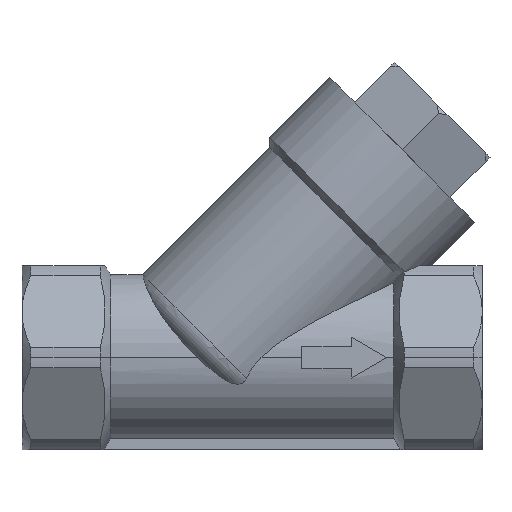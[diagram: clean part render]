
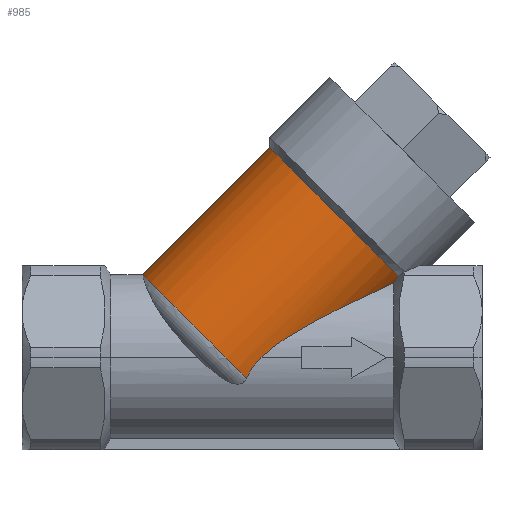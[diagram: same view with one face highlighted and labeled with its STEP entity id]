
A CAD part, top view. The second image highlights one B-rep face of the part: STEP entity #985.
In plain terms, the highlighted cylindrical face has radius 13.5 mm (diameter 27 mm), a partial arc.
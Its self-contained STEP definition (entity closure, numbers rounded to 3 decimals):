
#27 = AXIS2_PLACEMENT_3D ( 'NONE', #2010, #352, #2296 ) ;
#45 = EDGE_CURVE ( 'NONE', #2713, #2536, #534, .T. ) ;
#85 = DIRECTION ( 'NONE',  ( -0.707, 0.707, 0. ) ) ;
#107 = CARTESIAN_POINT ( 'NONE',  ( 0.813, -0.43, 11.75 ) ) ;
#220 = CARTESIAN_POINT ( 'NONE',  ( 5.422, 3.17, 11.317 ) ) ;
#308 = CARTESIAN_POINT ( 'NONE',  ( 20.212, 10.858, 5.38 ) ) ;
#352 = DIRECTION ( 'NONE',  ( 0.707, 0.707, 0. ) ) ;
#392 = B_SPLINE_CURVE_WITH_KNOTS ( 'NONE', 3,
 ( #3210, #1573, #489, #2427, #770, #2690, #1037, #2963, #1315, #3232, #1593, #3505, #1873, #220, #2161, #498, #2443, #785, #2700, #1049 ),
 .UNSPECIFIED., .F., .F.,
 ( 4, 2, 2, 2, 2, 2, 2, 2, 2, 4 ),
 ( 0., 0.003, 0.006, 0.009, 0.011, 0.014, 0.017, 0.019, 0.02, 0.023 ),
 .UNSPECIFIED. ) ;
#411 = CARTESIAN_POINT ( 'NONE',  ( 0.416, -0.885, 11.727 ) ) ;
#412 = ORIENTED_EDGE ( 'NONE', *, *, #1535, .F. ) ;
#432 = B_SPLINE_CURVE_WITH_KNOTS ( 'NONE', 3,
 ( #1497, #107, #411, #2351, #688, #2616 ),
 .UNSPECIFIED., .F., .F.,
 ( 4, 2, 4 ),
 ( 0.023, 0.025, 0.027 ),
 .UNSPECIFIED. ) ;
#489 = CARTESIAN_POINT ( 'NONE',  ( 18.606, 9.901, 6.355 ) ) ;
#498 = CARTESIAN_POINT ( 'NONE',  ( 4.225, 2.396, 11.506 ) ) ;
#534 = CIRCLE ( 'NONE', #2751, 13.5 ) ;
#576 = EDGE_CURVE ( 'NONE', #1933, #2569, #3444, .T. ) ;
#688 = CARTESIAN_POINT ( 'NONE',  ( -0.582, -2.388, 11.519 ) ) ;
#770 = CARTESIAN_POINT ( 'NONE',  ( 16.337, 8.848, 7.751 ) ) ;
#785 = CARTESIAN_POINT ( 'NONE',  ( 2.669, 1.284, 11.694 ) ) ;
#905 = CARTESIAN_POINT ( 'NONE',  ( 26.842, 35., 0. ) ) ;
#924 = CYLINDRICAL_SURFACE ( 'NONE', #2104, 13.5 ) ;
#985 = ADVANCED_FACE ( 'NONE', ( #1735 ), #924, .T. ) ;
#1001 = ORIENTED_EDGE ( 'NONE', *, *, #2353, .F. ) ;
#1029 = EDGE_CURVE ( 'NONE', #1104, #2569, #432, .T. ) ;
#1037 = CARTESIAN_POINT ( 'NONE',  ( 13.945, 7.711, 8.881 ) ) ;
#1049 = CARTESIAN_POINT ( 'NONE',  ( 1.243, 0., 11.75 ) ) ;
#1104 = VERTEX_POINT ( 'NONE', #1586 ) ;
#1136 = CARTESIAN_POINT ( 'NONE',  ( 11.993, 20.151, 0. ) ) ;
#1315 = CARTESIAN_POINT ( 'NONE',  ( 11.516, 6.517, 9.789 ) ) ;
#1360 = ORIENTED_EDGE ( 'NONE', *, *, #1029, .F. ) ;
#1410 = DIRECTION ( 'NONE',  ( -0.707, 0.707, 0. ) ) ;
#1497 = CARTESIAN_POINT ( 'NONE',  ( 1.243, 0., 11.75 ) ) ;
#1534 = CARTESIAN_POINT ( 'NONE',  ( 17.296, 44.546, 0. ) ) ;
#1535 = EDGE_CURVE ( 'NONE', #1933, #2713, #2004, .T. ) ;
#1549 = CARTESIAN_POINT ( 'NONE',  ( 20.637, 11.507, 5.727 ) ) ;
#1573 = CARTESIAN_POINT ( 'NONE',  ( 19.326, 10.231, 5.82 ) ) ;
#1586 = CARTESIAN_POINT ( 'NONE',  ( 1.243, 0., 11.75 ) ) ;
#1593 = CARTESIAN_POINT ( 'NONE',  ( 9.071, 5.256, 10.52 ) ) ;
#1624 = EDGE_CURVE ( 'NONE', #3558, #1104, #392, .T. ) ;
#1672 = CARTESIAN_POINT ( 'NONE',  ( 20., 10.538, 5.198 ) ) ;
#1735 = FACE_OUTER_BOUND ( 'NONE', #2195, .T. ) ;
#1873 = CARTESIAN_POINT ( 'NONE',  ( 6.63, 3.904, 11.094 ) ) ;
#1895 = ORIENTED_EDGE ( 'NONE', *, *, #1624, .F. ) ;
#1931 = CARTESIAN_POINT ( 'NONE',  ( 20.425, 11.181, 5.556 ) ) ;
#1933 = VERTEX_POINT ( 'NONE', #2310 ) ;
#2004 = LINE ( 'NONE', #1534, #3447 ) ;
#2010 = CARTESIAN_POINT ( 'NONE',  ( -5.954, 2.204, 0. ) ) ;
#2074 = DIRECTION ( 'NONE',  ( 0.707, 0.707, 0. ) ) ;
#2104 = AXIS2_PLACEMENT_3D ( 'NONE', #905, #3099, #85 ) ;
#2151 = CARTESIAN_POINT ( 'NONE',  ( 20., 10.538, 5.198 ) ) ;
#2161 = CARTESIAN_POINT ( 'NONE',  ( 5.021, 2.918, 11.385 ) ) ;
#2195 = EDGE_LOOP ( 'NONE', ( #412, #2662, #1360, #1895, #1001, #2626 ) ) ;
#2296 = DIRECTION ( 'NONE',  ( -0.707, 0.707, 0. ) ) ;
#2310 = CARTESIAN_POINT ( 'NONE',  ( -15.5, 11.75, 0. ) ) ;
#2351 = CARTESIAN_POINT ( 'NONE',  ( -0.28, -1.861, 11.612 ) ) ;
#2353 = EDGE_CURVE ( 'NONE', #2536, #3558, #3398, .T. ) ;
#2427 = CARTESIAN_POINT ( 'NONE',  ( 17.111, 9.209, 7.321 ) ) ;
#2443 = CARTESIAN_POINT ( 'NONE',  ( 3.83, 2.126, 11.56 ) ) ;
#2536 = VERTEX_POINT ( 'NONE', #1549 ) ;
#2569 = VERTEX_POINT ( 'NONE', #2641 ) ;
#2616 = CARTESIAN_POINT ( 'NONE',  ( -0.816, -2.934, 11.378 ) ) ;
#2626 = ORIENTED_EDGE ( 'NONE', *, *, #45, .F. ) ;
#2641 = CARTESIAN_POINT ( 'NONE',  ( -0.816, -2.934, 11.378 ) ) ;
#2662 = ORIENTED_EDGE ( 'NONE', *, *, #576, .T. ) ;
#2690 = CARTESIAN_POINT ( 'NONE',  ( 14.75, 8.097, 8.532 ) ) ;
#2700 = CARTESIAN_POINT ( 'NONE',  ( 1.925, 0.683, 11.75 ) ) ;
#2713 = VERTEX_POINT ( 'NONE', #3028 ) ;
#2751 = AXIS2_PLACEMENT_3D ( 'NONE', #1136, #3050, #1410 ) ;
#2963 = CARTESIAN_POINT ( 'NONE',  ( 12.329, 6.921, 9.509 ) ) ;
#3028 = CARTESIAN_POINT ( 'NONE',  ( 2.447, 29.697, 0. ) ) ;
#3050 = DIRECTION ( 'NONE',  ( 0.707, 0.707, 0. ) ) ;
#3099 = DIRECTION ( 'NONE',  ( 0.707, 0.707, 0. ) ) ;
#3156 = CARTESIAN_POINT ( 'NONE',  ( 20.637, 11.507, 5.727 ) ) ;
#3210 = CARTESIAN_POINT ( 'NONE',  ( 20., 10.538, 5.198 ) ) ;
#3232 = CARTESIAN_POINT ( 'NONE',  ( 9.887, 5.684, 10.295 ) ) ;
#3398 = B_SPLINE_CURVE_WITH_KNOTS ( 'NONE', 3,
 ( #3156, #1931, #308, #1672 ),
 .UNSPECIFIED., .F., .F.,
 ( 4, 4 ),
 ( 0.002, 0.003 ),
 .UNSPECIFIED. ) ;
#3444 = CIRCLE ( 'NONE', #27, 13.5 ) ;
#3447 = VECTOR ( 'NONE', #2074, 1000. ) ;
#3505 = CARTESIAN_POINT ( 'NONE',  ( 7.443, 4.366, 10.92 ) ) ;
#3558 = VERTEX_POINT ( 'NONE', #2151 ) ;
